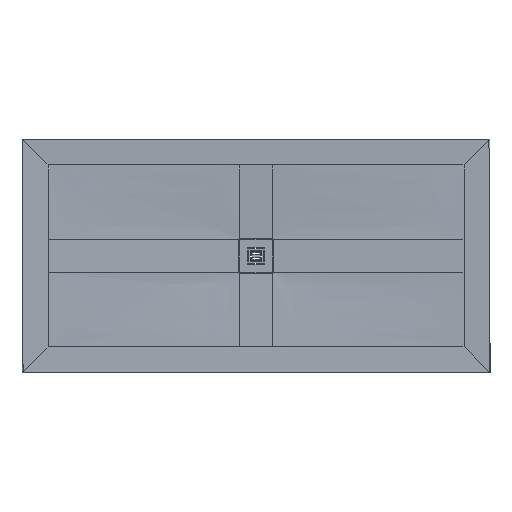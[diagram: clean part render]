
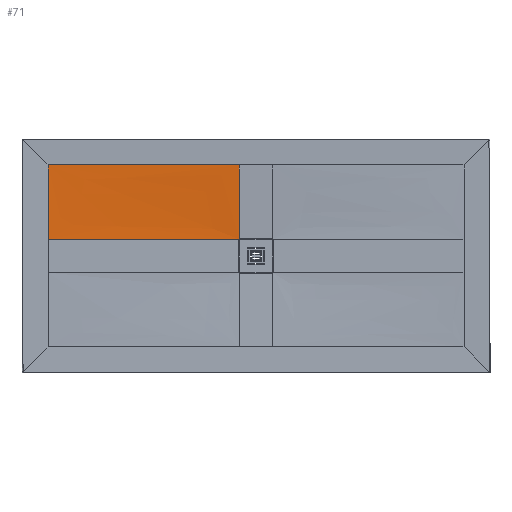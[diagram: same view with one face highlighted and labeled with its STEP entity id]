
A CAD part, top view. The second image highlights one B-rep face of the part: STEP entity #71.
In plain terms, the highlighted free-form (B-spline) face has degree [5, 5] with [6, 6] control points.
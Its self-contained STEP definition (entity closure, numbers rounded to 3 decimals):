
#71=ADVANCED_FACE('',(#187),#1938,.T.);
#187=FACE_OUTER_BOUND('',#303,.T.);
#303=EDGE_LOOP('',(#578,#579,#580,#581));
#578=ORIENTED_EDGE('',*,*,#1064,.T.);
#579=ORIENTED_EDGE('',*,*,#1113,.T.);
#580=ORIENTED_EDGE('',*,*,#1127,.F.);
#581=ORIENTED_EDGE('',*,*,#1104,.T.);
#1064=EDGE_CURVE('',#1699,#1700,#1382,.T.);
#1104=EDGE_CURVE('',#1721,#1699,#1420,.T.);
#1113=EDGE_CURVE('',#1700,#1730,#1429,.T.);
#1127=EDGE_CURVE('',#1721,#1730,#1440,.T.);
#1382=B_SPLINE_CURVE_WITH_KNOTS('',5,(#6025,#6026,#6027,#6028,#6029,#6030),
 .UNSPECIFIED.,.F.,.F.,(6,6),(0.,307.007),.UNSPECIFIED.);
#1420=B_SPLINE_CURVE_WITH_KNOTS('',5,(#6240,#6241,#6242,#6243,#6244,#6245),
 .UNSPECIFIED.,.F.,.F.,(6,6),(-736.902,0.),
 .UNSPECIFIED.);
#1429=B_SPLINE_CURVE_WITH_KNOTS('',5,(#6283,#6284,#6285,#6286,#6287,#6288),
 .UNSPECIFIED.,.F.,.F.,(6,6),(0.,736.902),
 .UNSPECIFIED.);
#1440=B_SPLINE_CURVE_WITH_KNOTS('',5,(#6368,#6369,#6370,#6371,#6372,#6373),
 .UNSPECIFIED.,.F.,.F.,(6,6),(70.269,381.306),
 .UNSPECIFIED.);
#1699=VERTEX_POINT('',#5667);
#1700=VERTEX_POINT('',#5668);
#1721=VERTEX_POINT('',#5689);
#1730=VERTEX_POINT('',#5698);
#1938=B_SPLINE_SURFACE_WITH_KNOTS('',5,5,((#4662,#4663,#4664,#4665,#4666,
#4667),(#4668,#4669,#4670,#4671,#4672,#4673),(#4674,#4675,#4676,#4677,#4678,
#4679),(#4680,#4681,#4682,#4683,#4684,#4685),(#4686,#4687,#4688,#4689,#4690,
#4691),(#4692,#4693,#4694,#4695,#4696,#4697)),.UNSPECIFIED.,.F.,.F.,.F.,
(6,6),(6,6),(0.,307.007),(0.,736.902),
 .UNSPECIFIED.);
#4662=CARTESIAN_POINT('',(-64.5,67.783,0.083));
#4663=CARTESIAN_POINT('',(-138.061,67.783,0.083));
#4664=CARTESIAN_POINT('',(-211.621,67.783,0.083));
#4665=CARTESIAN_POINT('',(-652.926,67.783,8.868));
#4666=CARTESIAN_POINT('',(-726.463,67.783,10.725));
#4667=CARTESIAN_POINT('',(-800.,67.783,12.583));
#4668=CARTESIAN_POINT('',(-64.5,96.36,0.083));
#4669=CARTESIAN_POINT('',(-142.176,100.468,0.083));
#4670=CARTESIAN_POINT('',(-217.015,106.97,0.083));
#4671=CARTESIAN_POINT('',(-653.59,114.271,8.868));
#4672=CARTESIAN_POINT('',(-722.351,120.773,10.725));
#4673=CARTESIAN_POINT('',(-800.,124.883,12.583));
#4674=CARTESIAN_POINT('',(-64.5,124.937,0.083));
#4675=CARTESIAN_POINT('',(-162.18,130.035,0.083));
#4676=CARTESIAN_POINT('',(-258.444,144.599,0.851));
#4677=CARTESIAN_POINT('',(-609.127,162.319,8.143));
#4678=CARTESIAN_POINT('',(-702.345,176.883,10.587));
#4679=CARTESIAN_POINT('',(-800.,181.983,12.583));
#4680=CARTESIAN_POINT('',(-64.5,296.146,11.14));
#4681=CARTESIAN_POINT('',(-187.48,296.973,11.14));
#4682=CARTESIAN_POINT('',(-311.883,279.443,9.989));
#4683=CARTESIAN_POINT('',(-549.615,255.792,11.245));
#4684=CARTESIAN_POINT('',(-677.035,238.258,11.148));
#4685=CARTESIAN_POINT('',(-800.,239.083,12.583));
#4686=CARTESIAN_POINT('',(-64.5,324.714,11.862));
#4687=CARTESIAN_POINT('',(-207.484,320.606,11.862));
#4688=CARTESIAN_POINT('',(-353.306,314.104,11.851));
#4689=CARTESIAN_POINT('',(-505.138,306.801,11.914));
#4690=CARTESIAN_POINT('',(-657.015,300.295,12.168));
#4691=CARTESIAN_POINT('',(-800.,296.183,12.583));
#4692=CARTESIAN_POINT('',(-64.5,353.283,12.583));
#4693=CARTESIAN_POINT('',(-211.6,353.283,12.583));
#4694=CARTESIAN_POINT('',(-358.7,353.283,12.583));
#4695=CARTESIAN_POINT('',(-505.8,353.283,12.583));
#4696=CARTESIAN_POINT('',(-652.9,353.283,12.583));
#4697=CARTESIAN_POINT('',(-800.,353.283,12.583));
#5667=CARTESIAN_POINT('',(-64.5,67.783,0.083));
#5668=CARTESIAN_POINT('',(-64.5,353.283,12.583));
#5689=CARTESIAN_POINT('',(-800.,67.783,12.583));
#5698=CARTESIAN_POINT('',(-800.,353.283,12.583));
#6025=CARTESIAN_POINT('',(-64.5,67.783,0.083));
#6026=CARTESIAN_POINT('',(-64.5,96.36,0.083));
#6027=CARTESIAN_POINT('',(-64.5,124.937,0.083));
#6028=CARTESIAN_POINT('',(-64.5,296.146,11.14));
#6029=CARTESIAN_POINT('',(-64.5,324.714,11.862));
#6030=CARTESIAN_POINT('',(-64.5,353.283,12.583));
#6240=CARTESIAN_POINT('',(-800.,67.783,12.583));
#6241=CARTESIAN_POINT('',(-726.463,67.783,10.725));
#6242=CARTESIAN_POINT('',(-652.926,67.783,8.868));
#6243=CARTESIAN_POINT('',(-211.621,67.783,0.083));
#6244=CARTESIAN_POINT('',(-138.061,67.783,0.083));
#6245=CARTESIAN_POINT('',(-64.5,67.783,0.083));
#6283=CARTESIAN_POINT('',(-64.5,353.283,12.583));
#6284=CARTESIAN_POINT('',(-211.6,353.283,12.583));
#6285=CARTESIAN_POINT('',(-358.7,353.283,12.583));
#6286=CARTESIAN_POINT('',(-505.8,353.283,12.583));
#6287=CARTESIAN_POINT('',(-652.9,353.283,12.583));
#6288=CARTESIAN_POINT('',(-800.,353.283,12.583));
#6368=CARTESIAN_POINT('',(-800.,67.783,12.583));
#6369=CARTESIAN_POINT('',(-800.,124.883,12.583));
#6370=CARTESIAN_POINT('',(-800.,181.983,12.583));
#6371=CARTESIAN_POINT('',(-800.,239.083,12.583));
#6372=CARTESIAN_POINT('',(-800.,296.183,12.583));
#6373=CARTESIAN_POINT('',(-800.,353.283,12.583));
